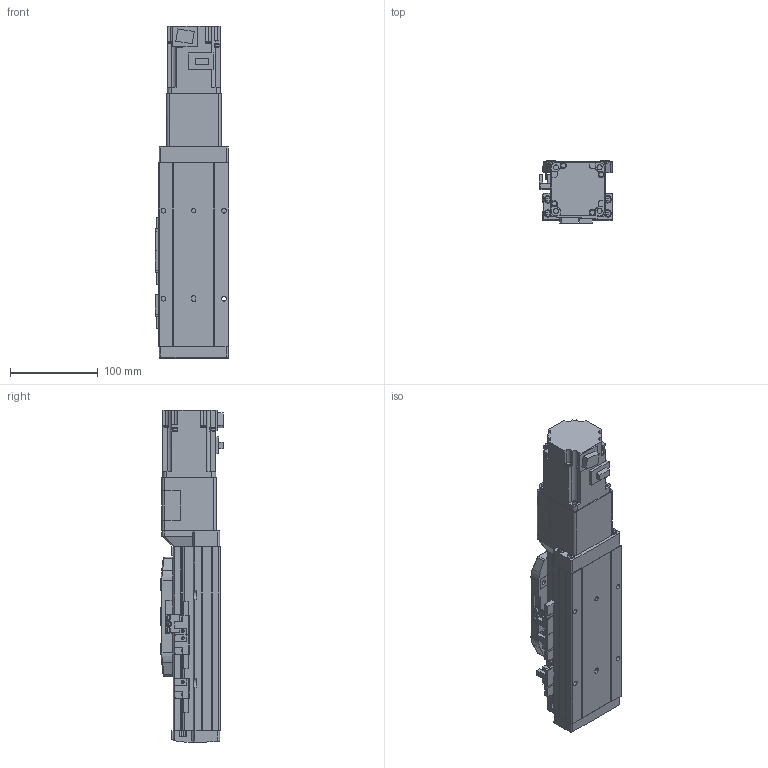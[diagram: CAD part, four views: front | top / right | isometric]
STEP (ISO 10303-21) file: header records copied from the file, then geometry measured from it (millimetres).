
FILE_DESCRIPTION (( 'STEP AP214' ), '1' );
FILE_NAME ('GSH8-50-BC-M20-1.step', '2025-01-07T06:03:47', ( '' ), ( '' ), 'SwSTEP 2.0', 'SolidWorks 2012', '' );
FILE_SCHEMA (( 'AUTOMOTIVE_DESIGN' ));
Length unit declared in the file: millimetre
Products named in the file (4): GSH8-GY-004; GSH8-BC-011-50-M20; HG-KR23_200W_Motor; GSH8-50-BC-M20-1
Assembly tree (3 placements, depth 2):
  GSH8-50-BC-M20-1
    GSH8-BC-011-50-M20
    GSH8-GY-004
    HG-KR23_200W_Motor
Bounding box: 84 x 71.3 x 377.6 mm (x, y, z)
Volume: 1080257.8 mm3; surface area: 237353.2 mm2
Topology: 3 solids, 7 shells, 1072 faces, 2822 edges, 1814 vertices
Faces by surface type: plane 627, cylinder 353, torus 38, cone 26, bspline 24, sphere 4
Entity records: 42278 total; most frequent: CARTESIAN_POINT 9608, DIRECTION 5704, ORIENTED_EDGE 5628, EDGE_CURVE 2814, AXIS2_PLACEMENT_3D 1906, LINE 1892, VECTOR 1892, VERTEX_POINT 1810
